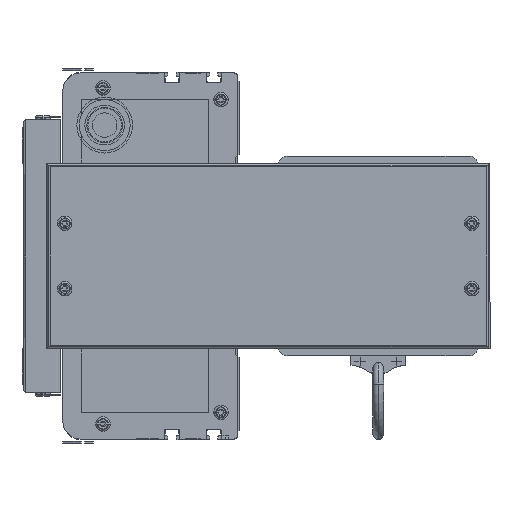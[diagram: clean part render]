
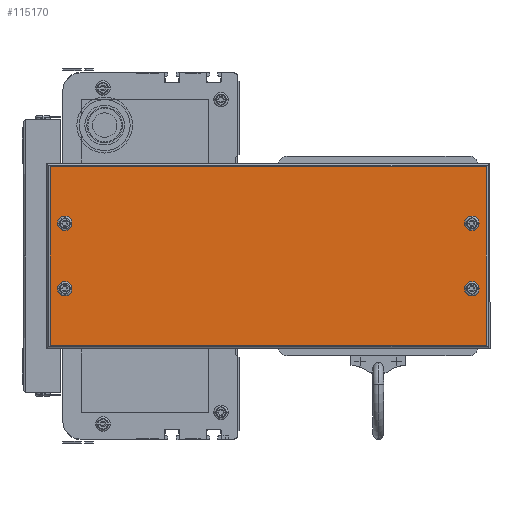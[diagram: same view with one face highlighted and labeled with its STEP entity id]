
A CAD part, left-side view. The second image highlights one B-rep face of the part: STEP entity #115170.
In plain terms, the highlighted planar face has unit normal (-1, 0, 0) as drawn and (1, 0, 0) by its records, which use the part's own axes.
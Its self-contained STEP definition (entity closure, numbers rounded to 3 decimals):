
#40554 = CARTESIAN_POINT ( 'NONE',  ( 50., 10., -35.5 ) ) ;
#40613 = CARTESIAN_POINT ( 'NONE',  ( 50., 2., -2. ) ) ;
#40621 = CIRCLE ( 'NONE', #40723, 2.5 ) ;
#40652 = CARTESIAN_POINT ( 'NONE',  ( 50., 10., -33. ) ) ;
#40714 = CARTESIAN_POINT ( 'NONE',  ( 50., 10., -30.5 ) ) ;
#40720 = DIRECTION ( 'NONE',  ( 0., 0., -1. ) ) ;
#40722 = DIRECTION ( 'NONE',  ( 1., 0., 0. ) ) ;
#40723 = AXIS2_PLACEMENT_3D ( 'NONE', #40652, #40722, #40720 ) ;
#40974 = CARTESIAN_POINT ( 'NONE',  ( 50., 10., -71.5 ) ) ;
#41019 = CARTESIAN_POINT ( 'NONE',  ( 50., 10., -66.5 ) ) ;
#41032 = DIRECTION ( 'NONE',  ( 0., 0., -1. ) ) ;
#41033 = DIRECTION ( 'NONE',  ( 1., 0., 0. ) ) ;
#41034 = CARTESIAN_POINT ( 'NONE',  ( 50., 10., -69. ) ) ;
#41036 = AXIS2_PLACEMENT_3D ( 'NONE', #41034, #41033, #41032 ) ;
#41048 = CIRCLE ( 'NONE', #41036, 2.5 ) ;
#41496 = CARTESIAN_POINT ( 'NONE',  ( 50., 242., 0. ) ) ;
#41498 = LINE ( 'NONE', #41496, #41613 ) ;
#41504 = AXIS2_PLACEMENT_3D ( 'NONE', #41660, #41647, #41645 ) ;
#41583 = CARTESIAN_POINT ( 'NONE',  ( 50., 242., -2. ) ) ;
#41590 = DIRECTION ( 'NONE',  ( 0., 0., -1. ) ) ;
#41592 = VECTOR ( 'NONE', #41590, 1000. ) ;
#41593 = CARTESIAN_POINT ( 'NONE',  ( 50., 2., 0. ) ) ;
#41595 = LINE ( 'NONE', #41593, #41592 ) ;
#41599 = CARTESIAN_POINT ( 'NONE',  ( 50., 2., -100. ) ) ;
#41609 = CARTESIAN_POINT ( 'NONE',  ( 50., 234., -69. ) ) ;
#41612 = DIRECTION ( 'NONE',  ( 0., 0., 1. ) ) ;
#41613 = VECTOR ( 'NONE', #41612, 1000. ) ;
#41645 = DIRECTION ( 'NONE',  ( 0., 0., -1. ) ) ;
#41647 = DIRECTION ( 'NONE',  ( 1., 0., 0. ) ) ;
#41655 = DIRECTION ( 'NONE',  ( 0., 0., -1. ) ) ;
#41657 = DIRECTION ( 'NONE',  ( 1., 0., 0. ) ) ;
#41658 = AXIS2_PLACEMENT_3D ( 'NONE', #41609, #41657, #41655 ) ;
#41660 = CARTESIAN_POINT ( 'NONE',  ( 50., 234., -33. ) ) ;
#41663 = CIRCLE ( 'NONE', #41658, 2.5 ) ;
#41673 = CIRCLE ( 'NONE', #41504, 2.5 ) ;
#41709 = CIRCLE ( 'NONE', #41799, 2.5 ) ;
#41713 = DIRECTION ( 'NONE',  ( 0., 0., -1. ) ) ;
#41715 = DIRECTION ( 'NONE',  ( 1., 0., 0. ) ) ;
#41716 = AXIS2_PLACEMENT_3D ( 'NONE', #41727, #41715, #41713 ) ;
#41727 = CARTESIAN_POINT ( 'NONE',  ( 50., 10., -69. ) ) ;
#41731 = CIRCLE ( 'NONE', #41716, 2.5 ) ;
#41747 = CARTESIAN_POINT ( 'NONE',  ( 50., 234., -35.5 ) ) ;
#41794 = DIRECTION ( 'NONE',  ( 0., 0., -1. ) ) ;
#41795 = DIRECTION ( 'NONE',  ( 1., 0., 0. ) ) ;
#41797 = CARTESIAN_POINT ( 'NONE',  ( 50., 234., -69. ) ) ;
#41799 = AXIS2_PLACEMENT_3D ( 'NONE', #41797, #41795, #41794 ) ;
#41963 = DIRECTION ( 'NONE',  ( 0., 1., 0. ) ) ;
#41964 = VECTOR ( 'NONE', #41963, 1000. ) ;
#41965 = CARTESIAN_POINT ( 'NONE',  ( 50., 244., -100. ) ) ;
#41973 = LINE ( 'NONE', #41965, #41964 ) ;
#41992 = DIRECTION ( 'NONE',  ( 0., 0., -1. ) ) ;
#41993 = DIRECTION ( 'NONE',  ( 1., 0., 0. ) ) ;
#41994 = CARTESIAN_POINT ( 'NONE',  ( 50., 234., -33. ) ) ;
#41995 = AXIS2_PLACEMENT_3D ( 'NONE', #41994, #41993, #41992 ) ;
#41997 = CIRCLE ( 'NONE', #41995, 2.5 ) ;
#42079 = CARTESIAN_POINT ( 'NONE',  ( 50., 244., -2. ) ) ;
#42080 = LINE ( 'NONE', #42079, #42156 ) ;
#42083 = DIRECTION ( 'NONE',  ( 0., 0., -1. ) ) ;
#42084 = DIRECTION ( 'NONE',  ( 1., 0., 0. ) ) ;
#42085 = AXIS2_PLACEMENT_3D ( 'NONE', #42101, #42084, #42083 ) ;
#42088 = CARTESIAN_POINT ( 'NONE',  ( 50., 234., -30.5 ) ) ;
#42089 = CIRCLE ( 'NONE', #42085, 2.5 ) ;
#42101 = CARTESIAN_POINT ( 'NONE',  ( 50., 10., -33. ) ) ;
#42155 = DIRECTION ( 'NONE',  ( 0., -1., 0. ) ) ;
#42156 = VECTOR ( 'NONE', #42155, 1000. ) ;
#42178 = DIRECTION ( 'NONE',  ( 0., 0., 1. ) ) ;
#42179 = DIRECTION ( 'NONE',  ( -1., 0., 0. ) ) ;
#42186 = CARTESIAN_POINT ( 'NONE',  ( 50., 234., -66.5 ) ) ;
#42188 = CARTESIAN_POINT ( 'NONE',  ( 50., 234., -71.5 ) ) ;
#42193 = FACE_BOUND ( 'NONE', #114915, .T. ) ;
#42195 = FACE_BOUND ( 'NONE', #115273, .T. ) ;
#42197 = CARTESIAN_POINT ( 'NONE',  ( 50., 244., 0. ) ) ;
#42207 = FACE_BOUND ( 'NONE', #115553, .T. ) ;
#42209 = PLANE ( 'NONE',  #42211 ) ;
#42210 = FACE_BOUND ( 'NONE', #114878, .T. ) ;
#42211 = AXIS2_PLACEMENT_3D ( 'NONE', #42197, #42179, #42178 ) ;
#42215 = FACE_OUTER_BOUND ( 'NONE', #114867, .T. ) ;
#42424 = CARTESIAN_POINT ( 'NONE',  ( 50., 242., -100. ) ) ;
#114051 = VERTEX_POINT ( 'NONE', #40554 ) ;
#114053 = EDGE_CURVE ( 'NONE', #114061, #114051, #40621, .T. ) ;
#114055 = VERTEX_POINT ( 'NONE', #40613 ) ;
#114061 = VERTEX_POINT ( 'NONE', #40714 ) ;
#114326 = VERTEX_POINT ( 'NONE', #40974 ) ;
#114331 = EDGE_CURVE ( 'NONE', #114346, #114326, #41048, .T. ) ;
#114346 = VERTEX_POINT ( 'NONE', #41019 ) ;
#114820 = ORIENTED_EDGE ( 'NONE', *, *, #115004, .T. ) ;
#114821 = EDGE_CURVE ( 'NONE', #115275, #114853, #41498, .T. ) ;
#114828 = EDGE_CURVE ( 'NONE', #114055, #114830, #41595, .T. ) ;
#114830 = VERTEX_POINT ( 'NONE', #41599 ) ;
#114853 = VERTEX_POINT ( 'NONE', #41583 ) ;
#114860 = EDGE_CURVE ( 'NONE', #115193, #115190, #41663, .T. ) ;
#114861 = EDGE_CURVE ( 'NONE', #115128, #114969, #41673, .T. ) ;
#114867 = EDGE_LOOP ( 'NONE', ( #115172, #114996, #114820, #115421 ) ) ;
#114878 = EDGE_LOOP ( 'NONE', ( #115046, #114999 ) ) ;
#114908 = EDGE_CURVE ( 'NONE', #114326, #114346, #41731, .T. ) ;
#114915 = EDGE_LOOP ( 'NONE', ( #114922, #115232 ) ) ;
#114922 = ORIENTED_EDGE ( 'NONE', *, *, #115080, .F. ) ;
#114923 = EDGE_CURVE ( 'NONE', #115190, #115193, #41709, .T. ) ;
#114969 = VERTEX_POINT ( 'NONE', #41747 ) ;
#114996 = ORIENTED_EDGE ( 'NONE', *, *, #114828, .T. ) ;
#114997 = ORIENTED_EDGE ( 'NONE', *, *, #114923, .F. ) ;
#114999 = ORIENTED_EDGE ( 'NONE', *, *, #114331, .F. ) ;
#115004 = EDGE_CURVE ( 'NONE', #114830, #115275, #41973, .T. ) ;
#115044 = ORIENTED_EDGE ( 'NONE', *, *, #115112, .F. ) ;
#115046 = ORIENTED_EDGE ( 'NONE', *, *, #114908, .F. ) ;
#115080 = EDGE_CURVE ( 'NONE', #114969, #115128, #41997, .T. ) ;
#115108 = ORIENTED_EDGE ( 'NONE', *, *, #114053, .F. ) ;
#115112 = EDGE_CURVE ( 'NONE', #114051, #114061, #42089, .T. ) ;
#115128 = VERTEX_POINT ( 'NONE', #42088 ) ;
#115130 = EDGE_CURVE ( 'NONE', #114853, #114055, #42080, .T. ) ;
#115170 = ADVANCED_FACE ( 'NONE', ( #42215, #42210, #42207, #42195, #42193 ), #42209, .F. ) ;
#115172 = ORIENTED_EDGE ( 'NONE', *, *, #115130, .T. ) ;
#115190 = VERTEX_POINT ( 'NONE', #42188 ) ;
#115193 = VERTEX_POINT ( 'NONE', #42186 ) ;
#115232 = ORIENTED_EDGE ( 'NONE', *, *, #114861, .F. ) ;
#115273 = EDGE_LOOP ( 'NONE', ( #114997, #115551 ) ) ;
#115275 = VERTEX_POINT ( 'NONE', #42424 ) ;
#115421 = ORIENTED_EDGE ( 'NONE', *, *, #114821, .T. ) ;
#115551 = ORIENTED_EDGE ( 'NONE', *, *, #114860, .F. ) ;
#115553 = EDGE_LOOP ( 'NONE', ( #115044, #115108 ) ) ;
